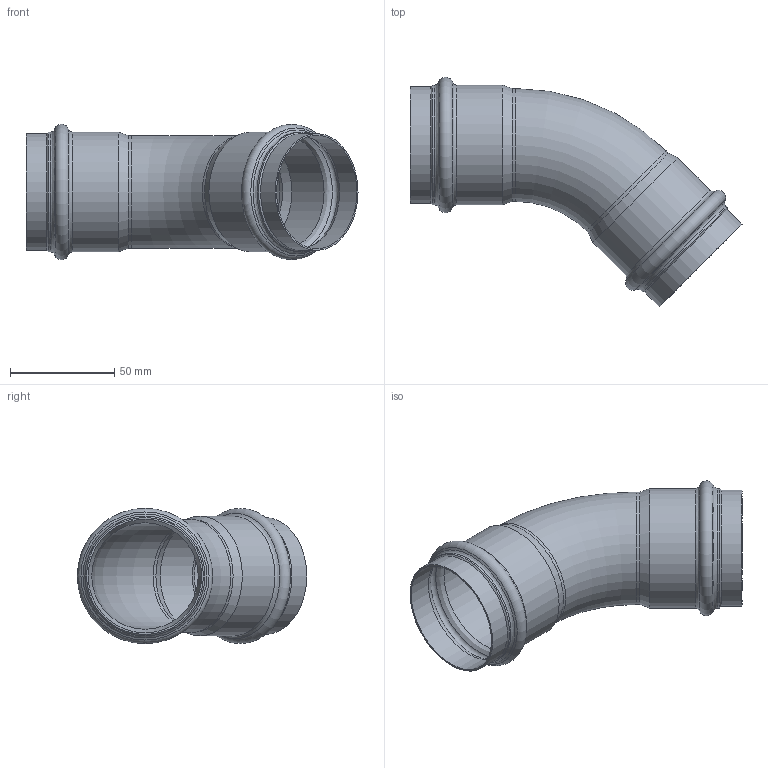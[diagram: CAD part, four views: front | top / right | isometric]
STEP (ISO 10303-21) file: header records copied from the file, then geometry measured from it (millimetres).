
FILE_DESCRIPTION((''),'2;1');
FILE_NAME('G:\Nirosan-Schmiedefeld\Technics\CAD\Bauteile\054\6904154(3).stp','2008-05-27T09:46:31',('herberg'),(''),'Autodesk Inventor 2009','Autodesk Inventor 2009','');
FILE_SCHEMA(('AUTOMOTIVE_DESIGN { 1 0 10303 214 1 1 1 1 }'));
Length unit declared in the file: millimetre
Products named in the file (1): 6904154(3)
Bounding box: 158.91 x 109.81 x 64.8 mm (x, y, z)
Volume: 40725.4 mm3; surface area: 58025.8 mm2
Topology: 1 solids, 1 shells, 40 faces, 84 edges, 46 vertices
Faces by surface type: cylinder 14, cone 10, bspline 8, torus 6, plane 2
Full cylindrical faces by diameter (mm): 51 x2, 54 x2, 54.35 x4, 55.95 x2, 57.35 x4
Entity records: 1298 total; most frequent: CARTESIAN_POINT 617, DIRECTION 146, ORIENTED_EDGE 80, EDGE_LOOP 80, AXIS2_PLACEMENT_3D 73, VERTEX_POINT 40, CIRCLE 40, EDGE_CURVE 40
